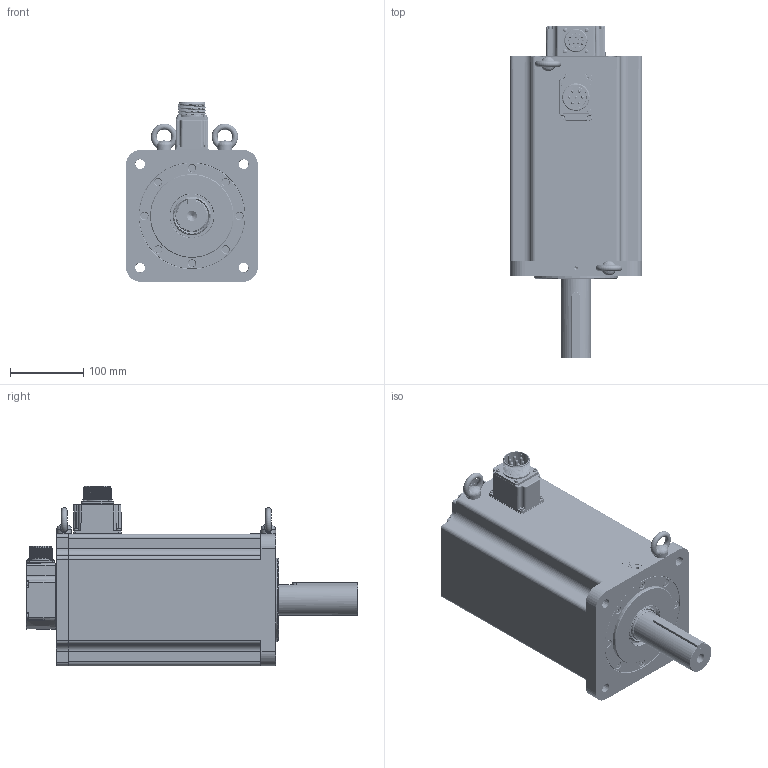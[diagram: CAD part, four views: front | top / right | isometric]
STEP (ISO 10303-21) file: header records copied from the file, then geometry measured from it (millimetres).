
FILE_DESCRIPTION( ( 'Unknown' ), '1' );
FILE_NAME( 'X:/05_Progetto TCE/010-TCE motor drawings/TCE180/vuoti/TCE180 6G XX 3 A2 0 C3.stp', 'Unknown', ( 'Unknown' ), ( 'Unknown' ), 'PSStep 17.0.49', 'Unknown', ' ' );
FILE_SCHEMA( ( 'AUTOMOTIVE_DESIGN { 1 0 10303 214 1 1 1 1 }' ) );
Length unit declared in the file: millimetre
Products named in the file (53): back cover TCE100 + CN MIL; 003303000373; 003108015154; 005911000525; 005911000525-oa3; 005911000525-oa4; 005911000525-oa5; 001107000620; U5180005_vuoto; 003799000581; 003303000370; 003303000372; cap-M3 nudo; 003120002510; 007117001753; 005911000201; 005911000190; Assem1; 005204000001; 005204000003; 005204000002; 005119001104; 005123001110; 005911000216; 005911000006; 005008000664-oa0; 005008000690-oa1; 005008000953-oa2; 005911000493; 003103001503; 005123001580; 003251022004; 005911000479; 005321000010; 003251022003; 005113001080; 003003050010
Assembly tree (80 placements, depth 3):
  Assem1
    005204000001
    005204000003
    005204000002
    005119001104
    005119001104
    005123001110
    005123001110
    005123001110
    005123001110
    005123001110
    005123001110
    005123001110
    005123001110
    005911000216  x4
    005911000006  x8
    005008000664-oa0
    005008000690-oa1
    005008000953-oa2
    005911000493  x4
    003103001503
    005123001580
    005123001580
    005123001580
    005123001580
    005123001580
    005123001580
    005123001580
    005123001580
    003251022004
    005911000479  x8
    005321000010  x2
    003251022003
    005113001080
    003003050010
    back cover TCE100 + CN MIL
      003303000373
      003108015154
      005911000525
      005911000525-oa3
      005911000525-oa4
      005911000525-oa5
      001107000620
    U5180005_vuoto
      003799000581
      003303000370
      003303000372
      cap-M3 nudo
      003120002510
      003120002510
      007117001753
      005911000201  x8
      005911000190
Bounding box: 180.3 x 453.5 x 245.3 mm (x, y, z)
Volume: 4053612.8 mm3; surface area: 840796.8 mm2
Topology: 78 solids, 85 shells, 2806 faces, 6887 edges, 4411 vertices
Faces by surface type: plane 1362, cylinder 689, cone 222, bspline 186, torus 175, extrusion 88, sphere 82, revolution 2
Full cylindrical faces by diameter (mm): 1.423 x1, 1.523 x1, 2 x34, 2.163 x1, 2.459 x21, 2.5 x1, 2.6 x1, 2.9 x4, 3 x30, 3.048 x4, 3.2 x1, 3.242 x6, 3.5 x11, 3.6 x7, 3.7 x4, 4 x9, 4.134 x24, 4.4 x15, 4.7 x8, 4.917 x2, 5 x16, 5.3 x1, 5.5 x14, 5.6 x4, 6 x7, 6.6 x6, 6.647 x22, 7 x8, 7.2 x1, 8 x17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
Entity records: 115821 total; most frequent: CARTESIAN_POINT 44043, DIRECTION 10570, ORIENTED_EDGE 10154, EDGE_CURVE 5077, AXIS2_PLACEMENT_3D 3942, VERTEX_POINT 3634, EDGE_LOOP 3296, FACE_OUTER_BOUND 2761
